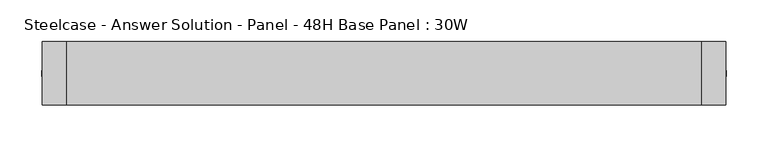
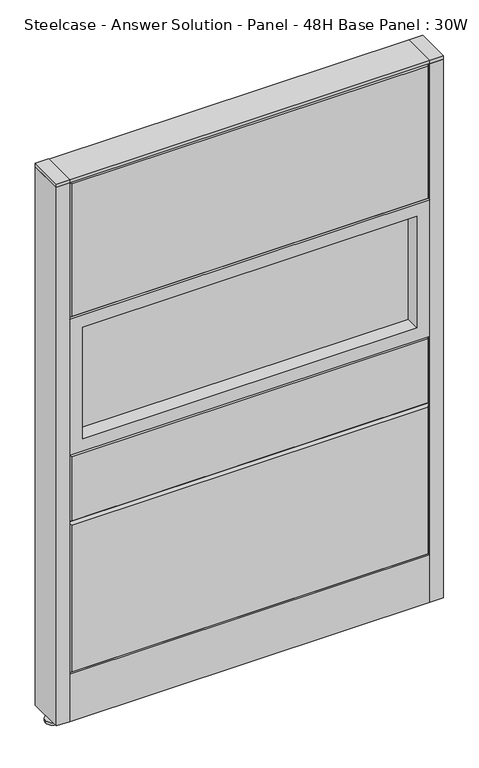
"""IFC4 building model written with IfcOpenShell, lengths in millimetres: furniture geometry, Steelcase - Answer Solution - Panel - 48H Base Panel : 30W."""

from ifc_helpers import new_model, si_unit, point, frame, frame_2d, origin, place, context, project, spatial, polyline, circle_curve, trimmed, segment, composite_curve, outline, extrude, faceted_brep, source, transform, mapped, element, save


def steelcase_answer_solution_panel_48h_base_panel_30w_9a3c567a(model_context):
    return source(origin(), model_context, "Body", "SolidModel", [
        extrude(outline(composite_curve([segment(trimmed(circle_curve(frame_2d((395.224, 0.0320214)), 5.08), [point((400.304, 0.0320214))], [point((390.144, 0.0320214))], False, "CARTESIAN"), True, "CONTINUOUS"), segment(trimmed(circle_curve(frame_2d((395.224, 0.0320214)), 5.08), [point((390.144, 0.0320214))], [point((400.304, 0.0320214))], False, "CARTESIAN"), True, "CONTINUOUS")], self_intersect=False)), frame((0.0, 0.0, 5.0799671), z_axis=(0.0, 0.0, 1.0), x_axis=(1.0, 0.0, 0.0)), (0.0, 0.0, 1.0), 10.414),
        extrude(outline(composite_curve([segment(trimmed(circle_curve(frame_2d((395.224, 0.0320214)), 15.24), [point((410.464, 0.0320214))], [point((379.984, 0.0320214))], False, "CARTESIAN"), True, "CONTINUOUS"), segment(trimmed(circle_curve(frame_2d((395.224, 0.0320214)), 15.24), [point((379.984, 0.0320214))], [point((410.464, 0.0320214))], False, "CARTESIAN"), True, "CONTINUOUS")], self_intersect=False)), frame((0.0, 0.0, -3.29e-05), z_axis=(0.0, 0.0, 1.0), x_axis=(1.0, 0.0, 0.0)), (0.0, 0.0, 1.0), 5.08),
        extrude(outline(polyline([(409.575, 38.1320408), (409.575, -38.0679592), (381.0, -38.0679592), (381.0, 38.1320408), (409.575, 38.1320408)])), frame((0.0, 0.0, 1218.2348), z_axis=(0.0, 0.0, 1.0), x_axis=(1.0, 0.0, 0.0)), (0.0, 0.0, 1.0), 7.3151671),
        extrude(outline(polyline([(409.575, 38.1320408), (409.575, -38.0679592), (381.0, -38.0679592), (381.0, 38.1320408), (409.575, 38.1320408)])), frame((0.0, 0.0, 15.4939671), z_axis=(0.0, 0.0, 1.0), x_axis=(1.0, 0.0, 0.0)), (0.0, 0.0, 1.0), 1202.7408329),
        extrude(outline(composite_curve([segment(trimmed(circle_curve(frame_2d((-395.224, 0.0320214)), 5.08), [point((-400.304, 0.0320214))], [point((-390.144, 0.0320214))], False, "CARTESIAN"), True, "CONTINUOUS"), segment(trimmed(circle_curve(frame_2d((-395.224, 0.0320214)), 5.08), [point((-390.144, 0.0320214))], [point((-400.304, 0.0320214))], False, "CARTESIAN"), True, "CONTINUOUS")], self_intersect=False)), frame((0.0, 0.0, 5.0799671), z_axis=(0.0, 0.0, 1.0), x_axis=(1.0, 0.0, 0.0)), (0.0, 0.0, 1.0), 10.414),
        extrude(outline(composite_curve([segment(trimmed(circle_curve(frame_2d((-395.224, 0.0320214)), 15.24), [point((-410.464, 0.0320214))], [point((-379.984, 0.0320214))], False, "CARTESIAN"), True, "CONTINUOUS"), segment(trimmed(circle_curve(frame_2d((-395.224, 0.0320214)), 15.24), [point((-379.984, 0.0320214))], [point((-410.464, 0.0320214))], False, "CARTESIAN"), True, "CONTINUOUS")], self_intersect=False)), frame((0.0, 0.0, -3.29e-05), z_axis=(0.0, 0.0, 1.0), x_axis=(1.0, 0.0, 0.0)), (0.0, 0.0, 1.0), 5.08),
        extrude(outline(polyline([(-409.575, 38.1320408), (-381.0, 38.1320408), (-381.0, -38.0679592), (-409.575, -38.0679592), (-409.575, 38.1320408)])), frame((0.0, 0.0, 1218.2348), z_axis=(0.0, 0.0, 1.0), x_axis=(1.0, 0.0, 0.0)), (0.0, 0.0, 1.0), 7.3151671),
        extrude(outline(polyline([(-409.575, 38.1320408), (-381.0, 38.1320408), (-381.0, -38.0679592), (-409.575, -38.0679592), (-409.575, 38.1320408)])), frame((0.0, 0.0, 15.4939671), z_axis=(0.0, 0.0, 1.0), x_axis=(1.0, 0.0, 0.0)), (0.0, 0.0, 1.0), 1202.7408329),
        extrude(outline(polyline([(-353.06, 6.346049), (353.06, 6.346049), (353.06, -6.353951), (-353.06, -6.353951), (-353.06, 6.346049)])), frame((0.0, 0.0, 637.54), z_axis=(0.0, 0.0, 1.0), x_axis=(1.0, 0.0, 0.0)), (0.0, 0.0, 1.0), 248.92),
        extrude(outline(polyline([(914.4, -381.0), (609.6, -381.0), (609.6, 381.0), (914.4, 381.0), (914.4, -381.0)]), holes=[polyline([(886.46, -353.06), (886.46, 353.06), (637.54, 353.06), (637.54, -353.06), (886.46, -353.06)])]), frame((0.0, -38.103951, 0.0), z_axis=(0.0, 1.0, 0.0), x_axis=(0.0, 0.0, 1.0)), (0.0, 0.0, 1.0), 76.2),
        faceted_brep([(-376.174, 38.1635011, 1214.374), (376.174, 38.1635011, 1214.374), (376.174, 38.1635011, 919.226), (-376.174, 38.1635011, 919.226), (-381.0, 33.3375011, 1219.2), (-381.0, 33.3375011, 914.4), (381.0, 33.3375011, 914.4), (381.0, 33.3375011, 1219.2)], [[[0, 1, 2, 3]], [[4, 5, 6, 7]], [[4, 7, 1, 0]], [[7, 6, 2, 1]], [[6, 5, 3, 2]], [[5, 4, 0, 3]]]),
        faceted_brep([(-376.174, 38.1635011, 604.774), (376.174, 38.1635011, 604.774), (376.174, 38.1635011, 462.026), (-376.174, 38.1635011, 462.026), (-381.0, 33.3375011, 609.6), (-381.0, 33.3375011, 457.2), (381.0, 33.3375011, 457.2), (381.0, 33.3375011, 609.6)], [[[0, 1, 2, 3]], [[4, 5, 6, 7]], [[4, 7, 1, 0]], [[7, 6, 2, 1]], [[6, 5, 3, 2]], [[5, 4, 0, 3]]]),
        faceted_brep([(-376.174, 38.1635011, 452.374), (376.174, 38.1635011, 452.374), (376.174, 38.1635011, 125.476), (-376.174, 38.1635011, 125.476), (-381.0, 33.3375011, 457.2), (-381.0, 33.3375011, 120.65), (381.0, 33.3375011, 120.65), (381.0, 33.3375011, 457.2)], [[[0, 1, 2, 3]], [[4, 5, 6, 7]], [[4, 7, 1, 0]], [[7, 6, 2, 1]], [[6, 5, 3, 2]], [[5, 4, 0, 3]]]),
        extrude(outline(polyline([(353.06, -6.346049), (-353.06, -6.346049), (-353.06, 6.353951), (353.06, 6.353951), (353.06, -6.346049)])), frame((0.0, 0.0, 637.54), z_axis=(0.0, 0.0, 1.0), x_axis=(1.0, 0.0, 0.0)), (0.0, 0.0, 1.0), 248.92),
        extrude(outline(polyline([(914.4, 381.0), (914.4, -381.0), (609.6, -381.0), (609.6, 381.0), (914.4, 381.0)]), holes=[polyline([(886.46, 353.06), (637.54, 353.06), (637.54, -353.06), (886.46, -353.06), (886.46, 353.06)])]), frame((0.0, -38.096049, 0.0), z_axis=(0.0, 1.0, 0.0), x_axis=(0.0, 0.0, 1.0)), (0.0, 0.0, 1.0), 76.2),
        faceted_brep([(376.174, -38.1635011, 1214.374), (-376.174, -38.1635011, 1214.374), (-376.174, -38.1635011, 919.226), (376.174, -38.1635011, 919.226), (381.0, -33.3375011, 1219.2), (381.0, -33.3375011, 914.4), (-381.0, -33.3375011, 914.4), (-381.0, -33.3375011, 1219.2)], [[[0, 1, 2, 3]], [[4, 5, 6, 7]], [[4, 7, 1, 0]], [[7, 6, 2, 1]], [[6, 5, 3, 2]], [[5, 4, 0, 3]]]),
        faceted_brep([(376.174, -38.1635011, 604.774), (-376.174, -38.1635011, 604.774), (-376.174, -38.1635011, 462.026), (376.174, -38.1635011, 462.026), (381.0, -33.3375011, 609.6), (381.0, -33.3375011, 457.2), (-381.0, -33.3375011, 457.2), (-381.0, -33.3375011, 609.6)], [[[0, 1, 2, 3]], [[4, 5, 6, 7]], [[4, 7, 1, 0]], [[7, 6, 2, 1]], [[6, 5, 3, 2]], [[5, 4, 0, 3]]]),
        faceted_brep([(376.174, -38.1635011, 452.374), (-376.174, -38.1635011, 452.374), (-376.174, -38.1635011, 125.476), (376.174, -38.1635011, 125.476), (381.0, -33.3375011, 457.2), (381.0, -33.3375011, 120.65), (-381.0, -33.3375011, 120.65), (-381.0, -33.3375011, 457.2)], [[[0, 1, 2, 3]], [[4, 5, 6, 7]], [[4, 7, 1, 0]], [[7, 6, 2, 1]], [[6, 5, 3, 2]], [[5, 4, 0, 3]]]),
        extrude(outline(polyline([(381.0, 38.1000194), (381.0, -38.1000194), (-381.0, -38.1000194), (-381.0, 38.1000194), (381.0, 38.1000194)])), frame((0.0, 0.0, 1219.2), z_axis=(0.0, 0.0, 1.0), x_axis=(1.0, 0.0, 0.0)), (0.0, 0.0, 1.0), 6.35),
        extrude(outline(polyline([(25.4000011, 119.8575157), (25.4000011, 120.65), (38.1000194, 120.65), (38.1000194, 15.494), (37.3075215, 15.494), (37.3075215, 119.8575157), (25.4000011, 119.8575157)])), frame((-381.0, 0.0, 0.0), z_axis=(1.0, 0.0, 0.0), x_axis=(0.0, 1.0, 0.0)), (0.0, 0.0, 1.0), 762.0),
        extrude(outline(polyline([(-25.4000011, 119.8575157), (-37.3075215, 119.8575157), (-37.3075215, 15.494), (-38.1000194, 15.494), (-38.1000194, 120.65), (-25.4000011, 120.65), (-25.4000011, 119.8575157)])), frame((-381.0, 0.0, 0.0), z_axis=(1.0, 0.0, 0.0), x_axis=(0.0, 1.0, 0.0)), (0.0, 0.0, 1.0), 762.0),
    ])


if __name__ == "__main__":
    model = new_model("IFC4")
    model_context = context("Model", 3, world=origin())
    ifc_project = project(units=[si_unit("LENGTHUNIT", "METRE", prefix="MILLI")], contexts=[model_context])
    site = spatial("IfcSite", under=ifc_project)
    building = spatial("IfcBuilding", under=site)
    placement = place(None, origin())
    steelcase_answer_solution_panel_48h_base_panel_30w_shape = steelcase_answer_solution_panel_48h_base_panel_30w_9a3c567a(model_context)
    element("IfcFurniture", 1, ObjectType="Steelcase - Answer Solution - Panel - 48H Base Panel : 30W", at=placement, inside=building, context=model_context, shape_type="MappedRepresentation", body=[
        mapped(steelcase_answer_solution_panel_48h_base_panel_30w_shape, transform((0.0, 0.0, 0.0), x_axis=(1.0, 0.0, 0.0), y_axis=(0.0, 1.0, 0.0), z_axis=(0.0, 0.0, 1.0))),
    ])
    save(model, "model.ifc")
